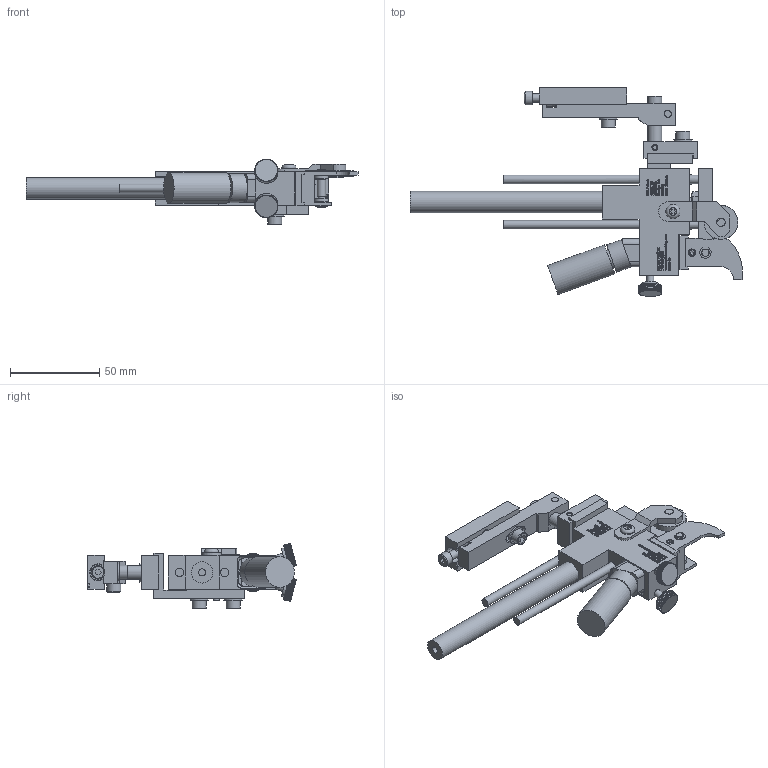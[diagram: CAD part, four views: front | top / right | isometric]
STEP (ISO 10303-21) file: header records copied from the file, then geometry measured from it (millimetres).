
FILE_DESCRIPTION((''),'2;1');
FILE_NAME('C:\Documents and Settings\Ron\My Documents\Inventor\Sprinter Drawing\Machines in Inventor\Model 44\Dot\1-eight\Ext Str\E1\Brkt\Ret\Model 44 ES1 .125 dia dot Ret w brkt.stp','2009-01-14T12:58:36',('Ron'),(''),'Autodesk Inventor 2008','Autodesk Inventor 2008','');
FILE_SCHEMA(('AUTOMOTIVE_DESIGN { 1 0 10303 214 1 1 1 1 }'));
Length unit declared in the file: inch
Products named in the file (1): Model 44 ES1 .125 dia dot Ret w brkt
Bounding box: 186.4 x 117.12 x 36.82 mm (x, y, z)
Volume: 107140.2 mm3; surface area: 52194.3 mm2
Topology: 381 solids, 381 shells, 6183 faces, 15359 edges, 9492 vertices
Faces by surface type: plane 4345, bspline 1315, cylinder 470, cone 48, torus 5
Full cylindrical faces by diameter (mm): 3.175 x5, 3.302 x1, 3.962 x1, 4.064 x7, 4.166 x1, 4.699 x1, 4.75 x4, 4.775 x1, 4.826 x8, 5.144 x1, 5.156 x5, 5.207 x2, 5.41 x2, 6.096 x1, 6.274 x2, 7.239 x1, 7.62 x1, 7.925 x7, 7.938 x1, 8.128 x1, 9.017 x1, 9.525 x2, 10.312 x4, 10.922 x1, 11.036 x1, 11.938 x2, 14.478 x1, 16.256 x1, 17.272 x1, 19.05 x1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
Entity records: 196948 total; most frequent: CARTESIAN_POINT 53928, ORIENTED_EDGE 30276, DIRECTION 23489, EDGE_CURVE 15138, VECTOR 11387, LINE 11387, VERTEX_POINT 9427, EDGE_LOOP 6737
